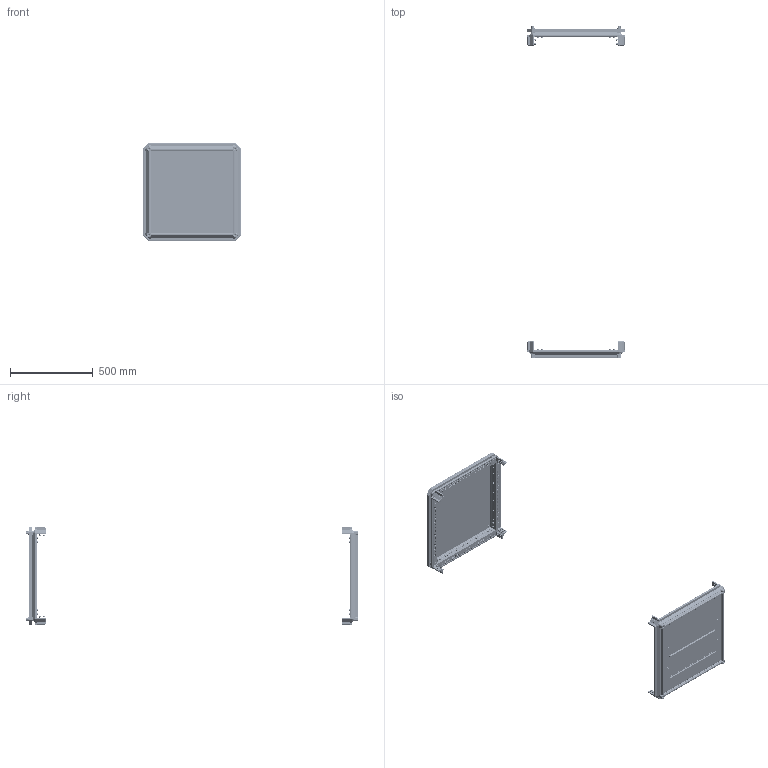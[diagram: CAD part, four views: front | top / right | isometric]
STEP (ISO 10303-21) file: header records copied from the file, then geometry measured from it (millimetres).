
FILE_DESCRIPTION (( 'STEP AP203' ), '1' );
FILE_NAME ('MA1.101.060620.00.00 AleSta-RB66 Êîìïëåêò êðûøà è îñíîâàíèå.STEP', '2025-02-19T13:58:05', ( '' ), ( '' ), 'SwSTEP 2.0', 'SolidWorks 2021', '' );
FILE_SCHEMA (( 'CONFIG_CONTROL_DESIGN' ));
Length unit declared in the file: millimetre
Products named in the file (18): MA1.101.060620.20.00 Íèæíÿÿ ïàíåëü 600õ600_600å600; MA1.101.060620.00.00 AleSta-RB66 Êîìïëåêò êðûøà è îñíîâàíèå; ﾇﾀﾊﾋﾅﾏﾊﾀ ﾃﾀﾅﾗﾍﾀﾟ ﾘﾅﾑﾒﾈﾃﾐﾀﾍﾍﾀﾟ ﾑ ﾓﾌﾅﾍﾜﾘﾅﾍﾍﾛﾌ ﾁﾎﾐﾒﾎﾌ M4 X 11 (0.5-2.5 ﾌﾌ) HEX U-S ﾖﾈﾍﾊ; MA1.101.060620.20.02 Çàêðûòèå íèæíåé ïàíåëè 600õ600_600å600; MA1.101.060620.10.00 ﾊ 600x600_600x600; ﾘ琺矜 01.019 ﾃﾎﾑﾒ11371-78_12; Âèíò ðåçüáîâûäàâëèâàþùèé Ì6õ12 DIN 7500E_Œ6å10; Âèíò_ðåçüáîâûäàâëèâàþùèé_Ì5õ12_DIN 7500E_Œ5å12; Øïèëüêà Ì6õ12_˜¯¨«ìª  Œ6å12; Øàéáà ñòîïîðíàÿ ñ íàðóæíûìè çóáöàìè SCHNORR, òèï VS öèíêîâûå õëîïüÿ Ì6 O6,4 ART 88121_Œ6; 7380-2 ISO Âèíòû ñ ïîëóêðóãëîé ãîëîâêîé ñ ôëàíöåì ñ âíóòðåííèì øåñòèãðàííèêîì Ì4õ10; MA1.101.060620.20.01 Ïîëîòíî íèæíåé ïàíåëè 600õ600_600å600; MA1.100.060620.00.01 Ñîåäèíèòåëü óãëîâîé_00; Óïëîòíèòåëü ïàíåëè íèæíåé_ 600å600; Âèíò ñ âí. øåñòèãðàííèêîì M12 DIN912_•30; MA1.101.060620.00.02 Ïðîôèëü ïîïåðå÷íûé ñâàðíîé_01 L=498 (˜=600); ﾘ琺矜 65ﾃ 019 ﾃﾎﾑﾒ 6402-70_12; MA1.101.060620.10.01 Ïîëîòíî êðûøè 600õ600_600å600
Assembly tree (215 placements, depth 3):
  MA1.101.060620.00.00 AleSta-RB66 Êîìïëåêò êðûøà è îñíîâàíèå
    MA1.101.060620.00.02 Ïðîôèëü ïîïåðå÷íûé ñâàðíîé_01 L=498 (˜=600)  x8
    MA1.101.060620.10.00 ﾊ 600x600_600x600
      MA1.101.060620.10.01 Ïîëîòíî êðûøè 600õ600_600å600
      Øïèëüêà Ì6õ12_˜¯¨«ìª  Œ6å12  x4
      Óïëîòíèòåëü ïàíåëè íèæíåé_ 600å600
    MA1.101.060620.20.00 Íèæíÿÿ ïàíåëü 600õ600_600å600
      MA1.101.060620.20.01 Ïîëîòíî íèæíåé ïàíåëè 600õ600_600å600
      ﾇﾀﾊﾋﾅﾏﾊﾀ ﾃﾀﾅﾗﾍﾀﾟ ﾘﾅﾑﾒﾈﾃﾐﾀﾍﾍﾀﾟ ﾑ ﾓﾌﾅﾍﾜﾘﾅﾍﾍﾛﾌ ﾁﾎﾐﾒﾎﾌ M4 X 11 (0.5-2.5 ﾌﾌ) HEX U-S ﾖﾈﾍﾊ  x4
      MA1.101.060620.20.02 Çàêðûòèå íèæíåé ïàíåëè 600õ600_600å600  x2
      7380-2 ISO Âèíòû ñ ïîëóêðóãëîé ãîëîâêîé ñ ôëàíöåì ñ âíóòðåííèì øåñòèãðàííèêîì Ì4õ10  x4
    Âèíò_ðåçüáîâûäàâëèâàþùèé_Ì5õ12_DIN 7500E_Œ5å12  x8
    MA1.100.060620.00.01 Ñîåäèíèòåëü óãëîâîé_00  x8
    Âèíò ñ âí. øåñòèãðàííèêîì M12 DIN912_•30  x4
    Âèíò ðåçüáîâûäàâëèâàþùèé Ì6õ12 DIN 7500E_Œ6å10  x80
    ﾘ琺矜 01.019 ﾃﾎﾑﾒ11371-78_12  x4
    ﾘ琺矜 65ﾃ 019 ﾃﾎﾑﾒ 6402-70_12  x4
    Øàéáà ñòîïîðíàÿ ñ íàðóæíûìè çóáöàìè SCHNORR, òèï VS öèíêîâûå õëîïüÿ Ì6 O6,4 ART 88121_Œ6  x80
Bounding box: 592 x 2010.9 x 592 mm (x, y, z)
Volume: 3157430.6 mm3; surface area: 3170392.2 mm2
Topology: 213 solids, 213 shells, 11814 faces, 30568 edges, 19184 vertices
Faces by surface type: plane 8670, cylinder 2328, cone 520, bspline 248, torus 48
Entity records: 50941 total; most frequent: CARTESIAN_POINT 11013, DIRECTION 6740, ORIENTED_EDGE 6634, EDGE_CURVE 3317, LINE 2460, VECTOR 2460, AXIS2_PLACEMENT_3D 2140, VERTEX_POINT 2011
